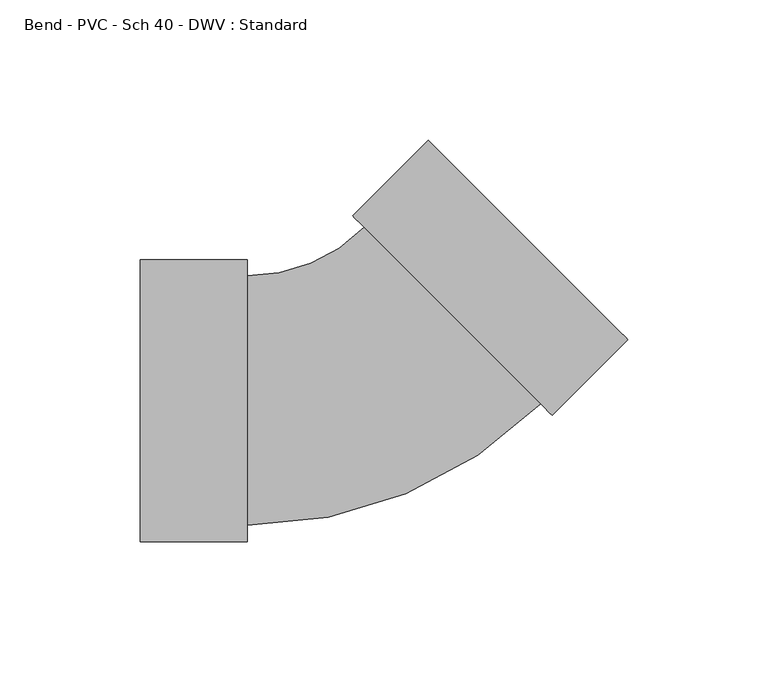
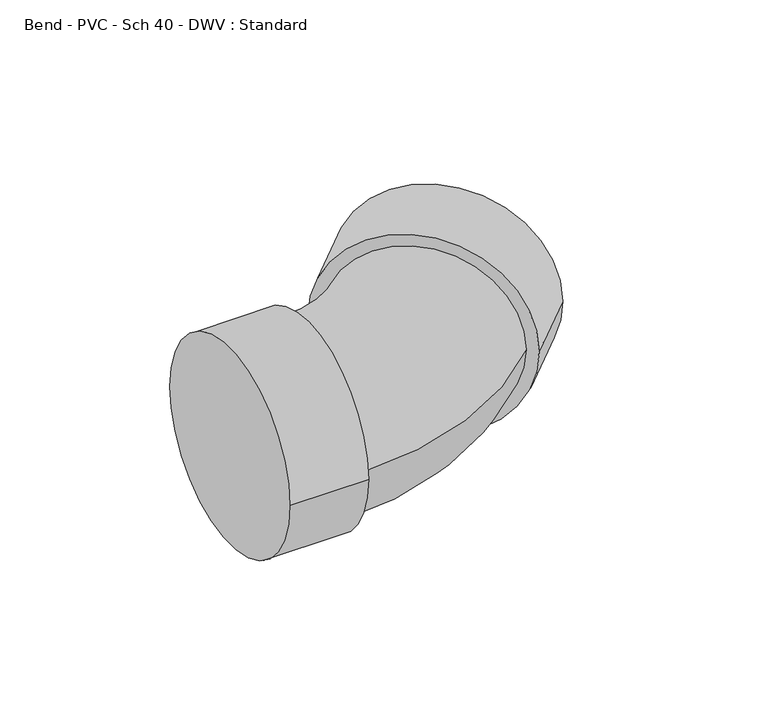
"""IFC4 building model written with IfcOpenShell, lengths in millimetres: pipe fitting geometry, Bend - PVC - Sch 40 - DWV : Standard."""

from ifc_helpers import new_model, si_unit, point, frame, origin, place, context, project, spatial, circle_curve, ellipse_curve, trimmed, source, transform, mapped, element, save
from ifc_brep_helpers import plane_surface, cylinder_surface, revolved_surface, advanced_brep


def bend_pvc_sch_40_dwv_standard_74c0f0ae(model_context):
    return source(origin(), model_context, "Body", "AdvancedBrep", [
        advanced_brep(
        [(-80.9752, -50.2666, 0.0), (-80.9752, 50.2666, 0.0), (-42.8752, -50.2666, 0.0), (-42.8752, 50.2666, 0.0), (-42.8752, -44.45, 0.0), (-42.8752, 44.45, 0.0), (-1.1231349, 61.7480675, 0.0), (61.7484132, -1.1039686, 0.0), (65.8620087, -5.2162876, 0.0), (-5.2367304, 65.8603865, 0.0), (92.7985957, 21.7286616, 0.0), (21.6998565, 92.8053356, 0.0)],
        [
            (0, 1, circle_curve(frame((-80.9752, 0.0, 0.0), z_axis=(-1.0, 0.0, 0.0), x_axis=(0.0, 1.0, 0.0)), 50.2666)),
            (1, 0, circle_curve(frame((-80.9752, 0.0, 0.0), z_axis=(-1.0, 0.0, 0.0), x_axis=(0.0, 1.0, 0.0)), 50.2666)),
            (2, 3, circle_curve(frame((-42.8752, 0.0, 0.0), z_axis=(1.0, 0.0, 0.0), x_axis=(0.0, 1.0, 0.0)), 50.2666)),
            (3, 2, circle_curve(frame((-42.8752, 0.0, 0.0), z_axis=(1.0, 0.0, 0.0), x_axis=(0.0, 1.0, 0.0)), 50.2666)),
            (4, 5, circle_curve(frame((-42.8752, 0.0, 0.0), z_axis=(-1.0, 0.0, 0.0), x_axis=(0.0, 1.0, 0.0)), 44.45)),
            (5, 4, circle_curve(frame((-42.8752, 0.0, 0.0), z_axis=(-1.0, 0.0, 0.0), x_axis=(0.0, 1.0, 0.0)), 44.45)),
            (0, 2),
            (3, 1),
            (6, 5, circle_curve(frame((-42.8752, 103.4871751, 0.0), z_axis=(0.0, 0.0, -1.0), x_axis=(0.0, -1.0, 0.0)), 59.0371751)),
            (4, 7, circle_curve(frame((-42.8752, 103.4871751, 0.0), z_axis=(0.0, 0.0, 1.0), x_axis=(0.0, -1.0, 0.0)), 147.9371751)),
            (7, 6, circle_curve(frame((30.3126391, 30.3220495, 0.0), z_axis=(-0.7069970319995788, -0.7072165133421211, 0.0), x_axis=(-0.7072165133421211, 0.7069970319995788, 0.0)), 44.45)),
            (6, 7, circle_curve(frame((30.3126391, 30.3220495, 0.0), z_axis=(-0.7069970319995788, -0.7072165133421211, 0.0), x_axis=(-0.7072165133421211, 0.7069970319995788, 0.0)), 44.45)),
            (8, 9, circle_curve(frame((30.3126391, 30.3220495, 0.0), z_axis=(-0.7069970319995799, -0.7072165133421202, 0.0), x_axis=(-0.7072165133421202, 0.7069970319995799, 0.0)), 50.2666)),
            (9, 8, circle_curve(frame((30.3126391, 30.3220495, 0.0), z_axis=(-0.7069970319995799, -0.7072165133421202, 0.0), x_axis=(-0.7072165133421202, 0.7069970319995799, 0.0)), 50.2666)),
            (10, 11, circle_curve(frame((57.2492261, 57.2669986, 0.0), z_axis=(0.7069970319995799, 0.7072165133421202, 0.0), x_axis=(-0.7072165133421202, 0.7069970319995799, 0.0)), 50.2666)),
            (11, 10, circle_curve(frame((57.2492261, 57.2669986, 0.0), z_axis=(0.7069970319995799, 0.7072165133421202, 0.0), x_axis=(-0.7072165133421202, 0.7069970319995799, 0.0)), 50.2666)),
            (8, 10),
            (11, 9),
        ],
        [
            plane_surface(frame((-80.9752, 0.0, 0.0), z_axis=(-1.0, 0.0, 0.0), x_axis=(0.0, 0.0, 1.0))),
            plane_surface(frame((-42.8752, 0.0, 0.0), z_axis=(1.0, 0.0, 0.0), x_axis=(0.0, 0.0, 1.0))),
            cylinder_surface(frame((-80.9752, 0.0, 0.0), z_axis=(-1.0, 0.0, 0.0), x_axis=(0.0, 1.0, 0.0)), 50.2666),
            revolved_surface(trimmed(ellipse_curve(frame((-42.8752, 0.0, 0.0), z_axis=(-1.0, 0.0, 0.0), x_axis=(0.0, 1.0, 0.0)), 44.45, 44.45), [point((-42.8752, -44.45, 0.0))], [point((-42.8752, 44.45, 0.0))], True, "CARTESIAN"), (-42.8752, 103.4871751, 0.0), (0.0, 0.0, 1.0)),
            revolved_surface(trimmed(ellipse_curve(frame((-42.8752, 0.0, 0.0), z_axis=(-1.0, 0.0, 0.0), x_axis=(0.0, 1.0, 0.0)), 44.45, 44.45), [point((-42.8752, 44.45, 0.0))], [point((-42.8752, -44.45, 0.0))], True, "CARTESIAN"), (-42.8752, 103.4871751, 0.0), (0.0, 0.0, 1.0)),
            plane_surface(frame((30.3126391, 30.3220495, 0.0), z_axis=(-0.7069970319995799, -0.7072165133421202, 0.0), x_axis=(0.0, 0.0, 1.0))),
            plane_surface(frame((57.2492261, 57.2669986, 0.0), z_axis=(0.7069970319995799, 0.7072165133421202, 0.0), x_axis=(0.0, 0.0, 1.0))),
            cylinder_surface(frame((30.3126391, 30.3220495, 0.0), z_axis=(-0.7069970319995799, -0.7072165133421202, 0.0), x_axis=(-0.7072165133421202, 0.7069970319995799, 0.0)), 50.2666),
        ],
        [
            (0, [[1, 2]]),
            (1, [[3, 4], [5, 6]]),
            (2, [[-1, 7, -4, 8]]),
            (2, [[-2, -8, -3, -7]]),
            (3, [[9, -5, 10, 11]]),
            (4, [[-9, 12, -10, -6]]),
            (5, [[13, 14], [-11, -12]]),
            (6, [[15, 16]]),
            (7, [[-13, 17, -16, 18]]),
            (7, [[-14, -18, -15, -17]]),
        ],
    ),
    ])


if __name__ == "__main__":
    model = new_model("IFC4")
    model_context = context("Model", 3, world=origin())
    ifc_project = project(units=[si_unit("LENGTHUNIT", "METRE", prefix="MILLI")], contexts=[model_context])
    site = spatial("IfcSite", under=ifc_project)
    building = spatial("IfcBuilding", under=site)
    placement = place(None, origin())
    bend_pvc_sch_40_dwv_standard_shape = bend_pvc_sch_40_dwv_standard_74c0f0ae(model_context)
    element("IfcPipeFitting", 1, ObjectType="Bend - PVC - Sch 40 - DWV : Standard", at=placement, inside=building, context=model_context, shape_type="MappedRepresentation", body=[
        mapped(bend_pvc_sch_40_dwv_standard_shape, transform((0.0, 0.0, 0.0), x_axis=(1.0, 0.0, 0.0), y_axis=(0.0, 1.0, 0.0), z_axis=(0.0, 0.0, 1.0))),
    ])
    save(model, "model.ifc")
